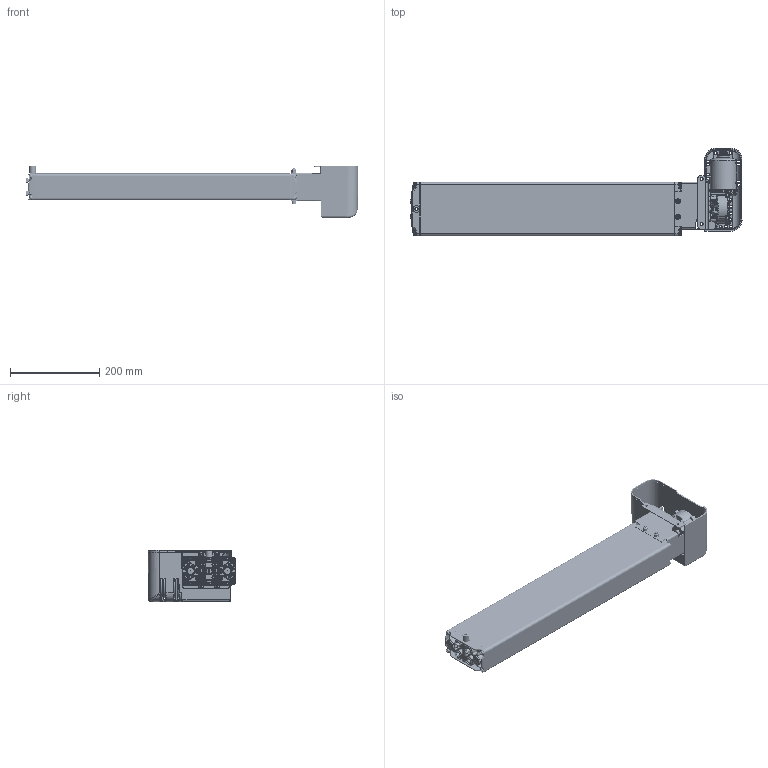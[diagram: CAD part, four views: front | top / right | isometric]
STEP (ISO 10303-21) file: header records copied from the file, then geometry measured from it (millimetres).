
FILE_DESCRIPTION(/* description */ ('Unknown'),/* implementation_level */ '2;1');
FILE_NAME(/* name */ '3X2.20024 Pumpe PB 3840 W mit Antrieb',/* time_stamp */ '2016-10-21T13:39:06+02:00',/* author */ ('Unknown'),/* organization */ ('Unknown'),/* preprocessor_version */ 'ST-DEVELOPER v16.7',/* originating_system */ 'DEX',/* authorisation */ $);
FILE_SCHEMA (('AUTOMOTIVE_DESIGN {1 0 10303 214 3 1 1}'));
Products named in the file (32): 102.20024; 115.00034; 125.00045; 115.00008; 142.00021; 125.00021; 142.00013; 125.00144; 115.00140; 126.00006; 122.00040; 119.00044; 126.00005; 127.00201; 127.00200; 127.00023; 124.00090; Getriebe; Ring; Schraube; Stator; Abdeckplatte; Antriebswelle; 128.00051; 123.00031; 142.00018; 142.00019; 142.00025; 142.00131; 123.00029; 142.00057; 142.00110
Assembly tree (47 placements, depth 3):
  102.20024
    115.00034  x3
      125.00045
      115.00008
      142.00021
      125.00021
    142.00013  x8
    125.00045
    125.00144
    115.00140
      126.00006
      122.00040
    119.00044
    126.00005
    127.00201
      127.00200
      127.00023
    124.00090
      Getriebe
      Ring
      Schraube
      Stator
      Abdeckplatte
      Antriebswelle
    128.00051
    123.00031
    142.00018  x2
    142.00019  x2
    142.00025  x2
    142.00131  x3
    123.00029
    142.00057
    142.00110  x2
Bounding box: 743.42 x 196.04 x 115.45 mm (x, y, z)
Volume: 1236517.8 mm3; surface area: 806188.6 mm2
Topology: 46 solids, 48 shells, 4756 faces, 12057 edges, 7303 vertices
Faces by surface type: bspline 1367, plane 1288, cylinder 1258, cone 479, torus 265, sphere 99
Full cylindrical faces by diameter (mm): 2.5 x4, 3.2 x4, 3.5 x4, 3.9 x5, 4.1 x3, 4.2 x6, 4.4 x5, 4.5 x1, 4.917 x2, 5 x8, 5.5 x5, 6 x6, 6.4 x2, 6.8 x5, 6.917 x8, 7 x1, 8 x8, 8.5 x6, 9 x2, 9.5 x1, 9.8 x8, 10 x8, 10.3 x1, 10.32 x1, 10.4 x1, 11 x5, 14 x2, 14.4 x4, 15 x1, 15.8 x2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
Entity records: 202744 total; most frequent: CARTESIAN_POINT 105890, ORIENTED_EDGE 19228, DIRECTION 14239, EDGE_CURVE 9614, VERTEX_POINT 6195, AXIS2_PLACEMENT_3D 5608, FACE_BOUND 4601, EDGE_LOOP 4596
